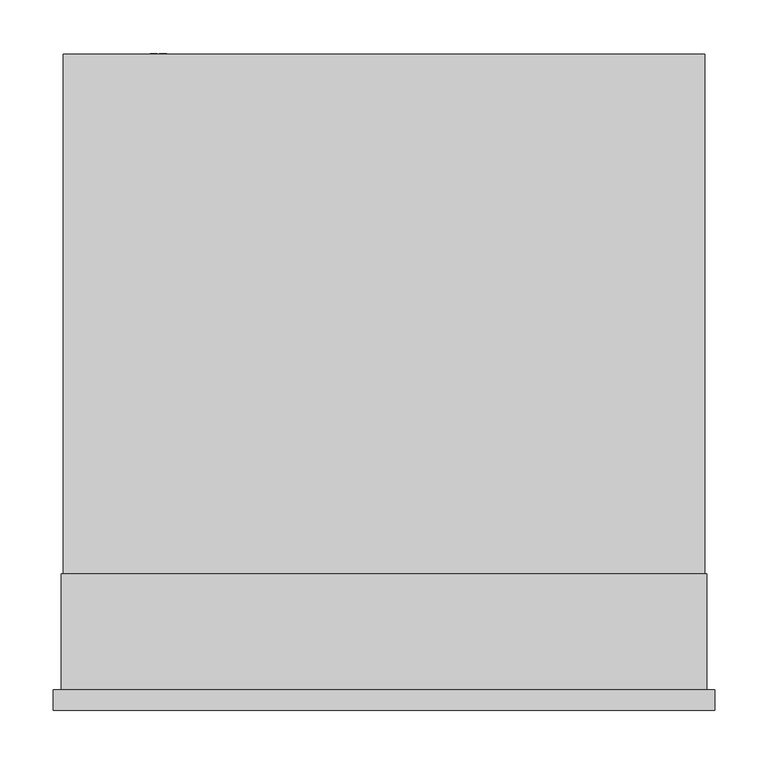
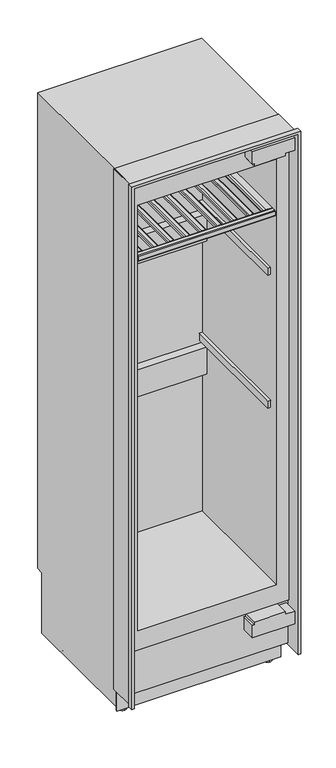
"""IFC4 building model written with IfcOpenShell, lengths in millimetres: proxy geometry, 11503620_USA_KWT2602SF : 36260215_USA_11503620_KWT2602SF."""

from ifc_helpers import new_model, si_unit, point, frame, frame_2d, origin, place, context, project, spatial, polyline, circle_curve, trimmed, segment, composite_curve, outline, extrude, faceted_brep, source, transform, mapped, element, save
from ifc_brep_helpers import plane_surface, cylinder_surface, advanced_brep


def specialty_equipment_70156e45(model_context):
    return source(origin(), model_context, "Body", "SolidModel", [
        extrude(outline(composite_curve([segment(polyline([(1797.0, -229.0), (1797.0, -252.0), (1775.0, -252.0), (1775.0, -229.0)]), True, "CONTINUOUS"), segment(trimmed(circle_curve(frame_2d((1780.0, -229.0)), 5.0), [point((1775.0, -229.0))], [point((1780.0, -224.0))], False, "CARTESIAN"), True, "CONTINUOUS"), segment(polyline([(1780.0, -224.0), (1792.0, -224.0)]), True, "CONTINUOUS"), segment(trimmed(circle_curve(frame_2d((1792.0, -229.0)), 5.0), [point((1792.0, -224.0))], [point((1797.0, -229.0))], False, "CARTESIAN"), True, "CONTINUOUS")], self_intersect=False)), frame((0.0, 90.0, 0.0), z_axis=(0.0, 1.0, 0.0), x_axis=(0.0, 0.0, 1.0)), (0.0, 0.0, 1.0), 404.0),
        extrude(outline(composite_curve([segment(polyline([(1797.0, -169.5), (1797.0, -181.5)]), True, "CONTINUOUS"), segment(trimmed(circle_curve(frame_2d((1793.0, -181.5)), 4.0), [point((1797.0, -181.5))], [point((1793.0, -185.5))], False, "CARTESIAN"), True, "CONTINUOUS"), segment(polyline([(1793.0, -185.5), (1785.0, -185.5), (1785.0, -165.5), (1793.0, -165.5)]), True, "CONTINUOUS"), segment(trimmed(circle_curve(frame_2d((1793.0, -169.5)), 4.0), [point((1793.0, -165.5))], [point((1797.0, -169.5))], False, "CARTESIAN"), True, "CONTINUOUS")], self_intersect=False)), frame((0.0, 90.0, 0.0), z_axis=(0.0, 1.0, 0.0), x_axis=(0.0, 0.0, 1.0)), (0.0, 0.0, 1.0), 404.0),
        extrude(outline(composite_curve([segment(trimmed(circle_curve(frame_2d((1792.0, 229.0)), 5.0), [point((1797.0, 229.0))], [point((1792.0, 224.0))], False, "CARTESIAN"), True, "CONTINUOUS"), segment(polyline([(1792.0, 224.0), (1780.0, 224.0)]), True, "CONTINUOUS"), segment(trimmed(circle_curve(frame_2d((1780.0, 229.0)), 5.0), [point((1780.0, 224.0))], [point((1775.0, 229.0))], False, "CARTESIAN"), True, "CONTINUOUS"), segment(polyline([(1775.0, 229.0), (1775.0, 252.0), (1797.0, 252.0), (1797.0, 229.0)]), True, "CONTINUOUS")], self_intersect=False)), frame((0.0, 90.0, 0.0), z_axis=(0.0, 1.0, 0.0), x_axis=(0.0, 0.0, 1.0)), (0.0, 0.0, 1.0), 404.0),
        extrude(outline(composite_curve([segment(polyline([(1797.0, -111.0), (1797.0, -123.0)]), True, "CONTINUOUS"), segment(trimmed(circle_curve(frame_2d((1793.0, -123.0)), 4.0), [point((1797.0, -123.0))], [point((1793.0, -127.0))], False, "CARTESIAN"), True, "CONTINUOUS"), segment(polyline([(1793.0, -127.0), (1785.0, -127.0), (1785.0, -107.0), (1793.0, -107.0)]), True, "CONTINUOUS"), segment(trimmed(circle_curve(frame_2d((1793.0, -111.0)), 4.0), [point((1793.0, -107.0))], [point((1797.0, -111.0))], False, "CARTESIAN"), True, "CONTINUOUS")], self_intersect=False)), frame((0.0, 90.0, 0.0), z_axis=(0.0, 1.0, 0.0), x_axis=(0.0, 0.0, 1.0)), (0.0, 0.0, 1.0), 404.0),
        extrude(outline(composite_curve([segment(polyline([(1797.0, -52.5), (1797.0, -64.5)]), True, "CONTINUOUS"), segment(trimmed(circle_curve(frame_2d((1793.0, -64.5)), 4.0), [point((1797.0, -64.5))], [point((1793.0, -68.5))], False, "CARTESIAN"), True, "CONTINUOUS"), segment(polyline([(1793.0, -68.5), (1785.0, -68.5), (1785.0, -48.5), (1793.0, -48.5)]), True, "CONTINUOUS"), segment(trimmed(circle_curve(frame_2d((1793.0, -52.5)), 4.0), [point((1793.0, -48.5))], [point((1797.0, -52.5))], False, "CARTESIAN"), True, "CONTINUOUS")], self_intersect=False)), frame((0.0, 90.0, 0.0), z_axis=(0.0, 1.0, 0.0), x_axis=(0.0, 0.0, 1.0)), (0.0, 0.0, 1.0), 404.0),
        extrude(outline(composite_curve([segment(polyline([(1797.0, 6.0), (1797.0, -6.0)]), True, "CONTINUOUS"), segment(trimmed(circle_curve(frame_2d((1793.0, -6.0)), 4.0), [point((1797.0, -6.0))], [point((1793.0, -10.0))], False, "CARTESIAN"), True, "CONTINUOUS"), segment(polyline([(1793.0, -10.0), (1785.0, -10.0), (1785.0, 10.0), (1793.0, 10.0)]), True, "CONTINUOUS"), segment(trimmed(circle_curve(frame_2d((1793.0, 6.0)), 4.0), [point((1793.0, 10.0))], [point((1797.0, 6.0))], False, "CARTESIAN"), True, "CONTINUOUS")], self_intersect=False)), frame((0.0, 90.0, 0.0), z_axis=(0.0, 1.0, 0.0), x_axis=(0.0, 0.0, 1.0)), (0.0, 0.0, 1.0), 404.0),
        extrude(outline(composite_curve([segment(polyline([(1797.0, 64.5), (1797.0, 52.5)]), True, "CONTINUOUS"), segment(trimmed(circle_curve(frame_2d((1793.0, 52.5)), 4.0), [point((1797.0, 52.5))], [point((1793.0, 48.5))], False, "CARTESIAN"), True, "CONTINUOUS"), segment(polyline([(1793.0, 48.5), (1785.0, 48.5), (1785.0, 68.5), (1793.0, 68.5)]), True, "CONTINUOUS"), segment(trimmed(circle_curve(frame_2d((1793.0, 64.5)), 4.0), [point((1793.0, 68.5))], [point((1797.0, 64.5))], False, "CARTESIAN"), True, "CONTINUOUS")], self_intersect=False)), frame((0.0, 90.0, 0.0), z_axis=(0.0, 1.0, 0.0), x_axis=(0.0, 0.0, 1.0)), (0.0, 0.0, 1.0), 404.0),
        extrude(outline(composite_curve([segment(polyline([(1797.0, 123.0), (1797.0, 111.0)]), True, "CONTINUOUS"), segment(trimmed(circle_curve(frame_2d((1793.0, 111.0)), 4.0), [point((1797.0, 111.0))], [point((1793.0, 107.0))], False, "CARTESIAN"), True, "CONTINUOUS"), segment(polyline([(1793.0, 107.0), (1785.0, 107.0), (1785.0, 127.0), (1793.0, 127.0)]), True, "CONTINUOUS"), segment(trimmed(circle_curve(frame_2d((1793.0, 123.0)), 4.0), [point((1793.0, 127.0))], [point((1797.0, 123.0))], False, "CARTESIAN"), True, "CONTINUOUS")], self_intersect=False)), frame((0.0, 90.0, 0.0), z_axis=(0.0, 1.0, 0.0), x_axis=(0.0, 0.0, 1.0)), (0.0, 0.0, 1.0), 404.0),
        extrude(outline(composite_curve([segment(polyline([(1797.0, 181.5), (1797.0, 169.5)]), True, "CONTINUOUS"), segment(trimmed(circle_curve(frame_2d((1793.0, 169.5)), 4.0), [point((1797.0, 169.5))], [point((1793.0, 165.5))], False, "CARTESIAN"), True, "CONTINUOUS"), segment(polyline([(1793.0, 165.5), (1785.0, 165.5), (1785.0, 185.5), (1793.0, 185.5)]), True, "CONTINUOUS"), segment(trimmed(circle_curve(frame_2d((1793.0, 181.5)), 4.0), [point((1793.0, 185.5))], [point((1797.0, 181.5))], False, "CARTESIAN"), True, "CONTINUOUS")], self_intersect=False)), frame((0.0, 90.0, 0.0), z_axis=(0.0, 1.0, 0.0), x_axis=(0.0, 0.0, 1.0)), (0.0, 0.0, 1.0), 404.0),
        extrude(outline(composite_curve([segment(polyline([(74.0, 1797.0), (87.0, 1797.0)]), True, "CONTINUOUS"), segment(trimmed(circle_curve(frame_2d((87.0, 1794.0)), 3.0), [point((87.0, 1797.0))], [point((90.0, 1794.0))], False, "CARTESIAN"), True, "CONTINUOUS"), segment(polyline([(90.0, 1794.0), (90.0, 1778.0)]), True, "CONTINUOUS"), segment(trimmed(circle_curve(frame_2d((87.0, 1778.0)), 3.0), [point((90.0, 1778.0))], [point((87.0, 1775.0))], False, "CARTESIAN"), True, "CONTINUOUS"), segment(polyline([(87.0, 1775.0), (74.0, 1775.0)]), True, "CONTINUOUS"), segment(trimmed(circle_curve(frame_2d((74.0, 1778.0)), 3.0), [point((74.0, 1775.0))], [point((71.0, 1778.0))], False, "CARTESIAN"), True, "CONTINUOUS"), segment(polyline([(71.0, 1778.0), (71.0, 1794.0)]), True, "CONTINUOUS"), segment(trimmed(circle_curve(frame_2d((74.0, 1794.0)), 3.0), [point((71.0, 1794.0))], [point((74.0, 1797.0))], False, "CARTESIAN"), True, "CONTINUOUS")], self_intersect=False)), frame((-252.0, 0.0, 0.0), z_axis=(1.0, 0.0, 0.0), x_axis=(0.0, 1.0, 0.0)), (0.0, 0.0, 1.0), 504.0),
        extrude(outline(composite_curve([segment(polyline([(497.0, 1797.0), (510.0, 1797.0)]), True, "CONTINUOUS"), segment(trimmed(circle_curve(frame_2d((510.0, 1794.0)), 3.0), [point((510.0, 1797.0))], [point((513.0, 1794.0))], False, "CARTESIAN"), True, "CONTINUOUS"), segment(polyline([(513.0, 1794.0), (513.0, 1778.0)]), True, "CONTINUOUS"), segment(trimmed(circle_curve(frame_2d((510.0, 1778.0)), 3.0), [point((513.0, 1778.0))], [point((510.0, 1775.0))], False, "CARTESIAN"), True, "CONTINUOUS"), segment(polyline([(510.0, 1775.0), (497.0, 1775.0)]), True, "CONTINUOUS"), segment(trimmed(circle_curve(frame_2d((497.0, 1778.0)), 3.0), [point((497.0, 1775.0))], [point((494.0, 1778.0))], False, "CARTESIAN"), True, "CONTINUOUS"), segment(polyline([(494.0, 1778.0), (494.0, 1794.0)]), True, "CONTINUOUS"), segment(trimmed(circle_curve(frame_2d((497.0, 1794.0)), 3.0), [point((494.0, 1794.0))], [point((497.0, 1797.0))], False, "CARTESIAN"), True, "CONTINUOUS")], self_intersect=False)), frame((-252.0, 0.0, 0.0), z_axis=(1.0, 0.0, 0.0), x_axis=(0.0, 1.0, 0.0)), (0.0, 0.0, 1.0), 504.0),
        extrude(outline(polyline([(216.5, 1968.4), (253.625, 1909.0), (252.4457524, 1909.0), (215.3207524, 1968.4), (216.5, 1968.4)])), frame((-69.0, 0.0, 0.0), z_axis=(1.0, 0.0, 0.0), x_axis=(0.0, 1.0, 0.0)), (0.0, 0.0, 1.0), 138.0),
        extrude(outline(polyline([(407.0, 1998.0), (407.0, 1902.0), (258.0, 1902.0), (213.0, 1974.0), (150.0, 1998.0), (407.0, 1998.0)])), frame((-255.5, 0.0, 0.0), z_axis=(1.0, 0.0, 0.0), x_axis=(0.0, 1.0, 0.0)), (0.0, 0.0, 1.0), 511.0),
        extrude(outline(polyline([(2095.0, 295.0), (2095.0, 140.0), (2047.0, 140.0), (2047.0, 146.0), (2036.5, 146.0), (2036.5, 261.0), (2047.0, 261.0), (2047.0, 295.0), (2095.0, 295.0)])), frame((0.0, 21.0, 0.0), z_axis=(0.0, 1.0, 0.0), x_axis=(0.0, 0.0, 1.0)), (0.0, 0.0, 1.0), 47.0),
        extrude(outline(polyline([(254.0, 140.0), (206.0, 140.0), (206.0, 295.0), (254.0, 295.0), (254.0, 261.0), (264.0, 261.0), (264.0, 146.0), (254.0, 146.0), (254.0, 140.0)])), frame((0.0, 21.0, 0.0), z_axis=(0.0, 1.0, 0.0), x_axis=(0.0, 0.0, 1.0)), (0.0, 0.0, 1.0), 54.0),
        extrude(outline(polyline([(99.0373308, -211.2645771), (97.7615342, -211.2645771), (97.7615342, -205.3195541), (94.7968516, -205.3195541), (94.7968516, -210.969579), (93.5246295, -210.969579), (93.5246295, -205.3415693), (90.2570046, -205.3415693), (90.2570046, -211.4619689), (88.9546219, -211.4619689), (88.9546219, -204.0443524), (99.0373308, -204.0443524), (99.0373308, -211.2645771)])), frame((0.0, 625.0, 0.0), z_axis=(0.0, 1.0, 0.0), x_axis=(0.0, 0.0, 1.0)), (0.0, 0.0, 1.0), 1.0),
        extrude(outline(polyline([(99.0458, -214.5619704), (90.2663944, -214.5619704), (90.2663944, -219.6145879), (89.0134802, -219.6145879), (89.0134802, -213.3423809), (99.0458, -213.3423809), (99.0458, -214.5619704)])), frame((0.0, 625.0, 0.0), z_axis=(0.0, 1.0, 0.0), x_axis=(0.0, 0.0, 1.0)), (0.0, 0.0, 1.0), 1.0),
        extrude(outline(composite_curve([segment(trimmed(circle_curve(frame_2d((94.0, -211.5)), 7.5), [point((86.5, -211.5))], [point((101.5, -211.5))], False, "CARTESIAN"), True, "CONTINUOUS"), segment(trimmed(circle_curve(frame_2d((94.0, -211.5)), 7.5), [point((101.5, -211.5))], [point((86.5, -211.5))], False, "CARTESIAN"), True, "CONTINUOUS")], self_intersect=False)), frame((0.0, 598.0, 0.0), z_axis=(0.0, 1.0, 0.0), x_axis=(0.0, 0.0, 1.0)), (0.0, 0.0, 1.0), 27.0),
        extrude(outline(polyline([(-301.5, 125.0), (301.5, 125.0), (301.5, 120.0), (-301.5, 120.0), (-301.5, 125.0)])), frame((0.0, 0.0, 14.0), z_axis=(0.0, 0.0, 1.0), x_axis=(1.0, 0.0, 0.0)), (0.0, 0.0, 1.0), 83.0),
        extrude(outline(polyline([(-244.5, 540.0), (-244.5, 105.0), (-255.5, 105.0), (-255.5, 540.0), (-244.5, 540.0)])), frame((0.0, 0.0, 1527.0), z_axis=(0.0, 0.0, 1.0), x_axis=(1.0, 0.0, 0.0)), (0.0, 0.0, 1.0), 27.0),
        extrude(outline(polyline([(-244.5, 540.0), (-244.5, 105.0), (-255.5, 105.0), (-255.5, 540.0), (-244.5, 540.0)])), frame((0.0, 0.0, 1011.0), z_axis=(0.0, 0.0, 1.0), x_axis=(1.0, 0.0, 0.0)), (0.0, 0.0, 1.0), 27.0),
        extrude(outline(polyline([(255.5, 540.0), (255.5, 105.0), (244.5, 105.0), (244.5, 540.0), (255.5, 540.0)])), frame((0.0, 0.0, 1527.0), z_axis=(0.0, 0.0, 1.0), x_axis=(1.0, 0.0, 0.0)), (0.0, 0.0, 1.0), 27.0),
        extrude(outline(polyline([(255.5, 540.0), (255.5, 105.0), (244.5, 105.0), (244.5, 540.0), (255.5, 540.0)])), frame((0.0, 0.0, 1011.0), z_axis=(0.0, 0.0, 1.0), x_axis=(1.0, 0.0, 0.0)), (0.0, 0.0, 1.0), 27.0),
        extrude(outline(polyline([(255.5, 540.0), (255.5, 510.0), (-255.5, 510.0), (-255.5, 540.0), (255.5, 540.0)])), frame((0.0, 0.0, 1928.0), z_axis=(0.0, 0.0, 1.0), x_axis=(1.0, 0.0, 0.0)), (0.0, 0.0, 1.0), 70.0),
        extrude(outline(polyline([(255.5, 540.0), (255.5, 510.0), (-255.5, 510.0), (-255.5, 540.0), (255.5, 540.0)])), frame((0.0, 0.0, 1412.0), z_axis=(0.0, 0.0, 1.0), x_axis=(1.0, 0.0, 0.0)), (0.0, 0.0, 1.0), 105.0),
        extrude(outline(polyline([(255.5, 540.0), (255.5, 510.0), (-255.5, 510.0), (-255.5, 540.0), (255.5, 540.0)])), frame((0.0, 0.0, 895.0), z_axis=(0.0, 0.0, 1.0), x_axis=(1.0, 0.0, 0.0)), (0.0, 0.0, 1.0), 105.0),
        advanced_brep(
        [(-267.5, 160.0, 0.0), (-267.5, 130.0, 0.0), (-267.5, 160.0, 7.0), (-267.5, 130.0, 7.0), (-267.5, 149.7, 7.0), (-267.5, 140.3, 7.0), (-267.5, 149.7, 28.0), (-267.5, 140.3, 28.0)],
        [
            (0, 1, circle_curve(frame((-267.5, 145.0, 0.0), z_axis=(0.0, 0.0, -1.0), x_axis=(1.0, 0.0, 0.0)), 15.0)),
            (1, 0, circle_curve(frame((-267.5, 145.0, 0.0), z_axis=(0.0, 0.0, -1.0), x_axis=(1.0, 0.0, 0.0)), 15.0)),
            (2, 3, circle_curve(frame((-267.5, 145.0, 7.0), z_axis=(0.0, 0.0, 1.0), x_axis=(1.0, 0.0, 0.0)), 15.0)),
            (3, 2, circle_curve(frame((-267.5, 145.0, 7.0), z_axis=(0.0, 0.0, 1.0), x_axis=(1.0, 0.0, 0.0)), 15.0)),
            (4, 5, circle_curve(frame((-267.5, 145.0, 7.0), z_axis=(0.0, 0.0, -1.0), x_axis=(0.0, -1.0, 0.0)), 4.7)),
            (5, 4, circle_curve(frame((-267.5, 145.0, 7.0), z_axis=(0.0, 0.0, -1.0), x_axis=(0.0, -1.0, 0.0)), 4.7)),
            (0, 2),
            (3, 1),
            (6, 7, circle_curve(frame((-267.5, 145.0, 28.0), z_axis=(0.0, 0.0, 1.0), x_axis=(0.0, -1.0, 0.0)), 4.7)),
            (7, 6, circle_curve(frame((-267.5, 145.0, 28.0), z_axis=(0.0, 0.0, 1.0), x_axis=(0.0, -1.0, 0.0)), 4.7)),
            (7, 5),
            (4, 6),
        ],
        [
            plane_surface(frame((-252.5, 145.0, 0.0), z_axis=(0.0, 0.0, -1.0), x_axis=(0.0, -1.0, 0.0))),
            plane_surface(frame((-252.5, 145.0, 7.0), z_axis=(0.0, 0.0, 1.0), x_axis=(0.0, 1.0, 0.0))),
            cylinder_surface(frame((-267.5, 145.0, 7.0), z_axis=(0.0, 0.0, -1.0), x_axis=(1.0, 0.0, 0.0)), 15.0),
            plane_surface(frame((-267.5, 140.3, 28.0), z_axis=(0.0, 0.0, 1.0), x_axis=(1.0, 0.0, 0.0))),
            cylinder_surface(frame((-267.5, 145.0, 28.0), z_axis=(0.0, 0.0, -1.0), x_axis=(0.0, -1.0, 0.0)), 4.7),
        ],
        [
            (0, [[1, 2]]),
            (1, [[3, 4], [5, 6]]),
            (2, [[-1, 7, -4, 8]]),
            (2, [[-2, -8, -3, -7]]),
            (3, [[9, 10]]),
            (4, [[-10, 11, -5, 12]]),
            (4, [[-9, -12, -6, -11]]),
        ],
    ),
        advanced_brep(
        [(267.5, 160.0, 0.0), (267.5, 130.0, 0.0), (267.5, 160.0, 7.0), (267.5, 130.0, 7.0), (267.5, 149.7, 7.0), (267.5, 140.3, 7.0), (267.5, 149.7, 28.0), (267.5, 140.3, 28.0)],
        [
            (0, 1, circle_curve(frame((267.5, 145.0, 0.0), z_axis=(0.0, 0.0, -1.0), x_axis=(1.0, 0.0, 0.0)), 15.0)),
            (1, 0, circle_curve(frame((267.5, 145.0, 0.0), z_axis=(0.0, 0.0, -1.0), x_axis=(1.0, 0.0, 0.0)), 15.0)),
            (2, 3, circle_curve(frame((267.5, 145.0, 7.0), z_axis=(0.0, 0.0, 1.0), x_axis=(1.0, 0.0, 0.0)), 15.0)),
            (3, 2, circle_curve(frame((267.5, 145.0, 7.0), z_axis=(0.0, 0.0, 1.0), x_axis=(1.0, 0.0, 0.0)), 15.0)),
            (4, 5, circle_curve(frame((267.5, 145.0, 7.0), z_axis=(0.0, 0.0, -1.0), x_axis=(0.0, -1.0, 0.0)), 4.7)),
            (5, 4, circle_curve(frame((267.5, 145.0, 7.0), z_axis=(0.0, 0.0, -1.0), x_axis=(0.0, -1.0, 0.0)), 4.7)),
            (0, 2),
            (3, 1),
            (6, 7, circle_curve(frame((267.5, 145.0, 28.0), z_axis=(0.0, 0.0, 1.0), x_axis=(0.0, -1.0, 0.0)), 4.7)),
            (7, 6, circle_curve(frame((267.5, 145.0, 28.0), z_axis=(0.0, 0.0, 1.0), x_axis=(0.0, -1.0, 0.0)), 4.7)),
            (7, 5),
            (4, 6),
        ],
        [
            plane_surface(frame((-252.5, 145.0, 0.0), z_axis=(0.0, 0.0, -1.0), x_axis=(0.0, -1.0, 0.0))),
            plane_surface(frame((-252.5, 145.0, 7.0), z_axis=(0.0, 0.0, 1.0), x_axis=(0.0, 1.0, 0.0))),
            cylinder_surface(frame((267.5, 145.0, 7.0), z_axis=(0.0, 0.0, -1.0), x_axis=(1.0, 0.0, 0.0)), 15.0),
            plane_surface(frame((-267.5, 140.3, 28.0), z_axis=(0.0, 0.0, 1.0), x_axis=(1.0, 0.0, 0.0))),
            cylinder_surface(frame((267.5, 145.0, 28.0), z_axis=(0.0, 0.0, -1.0), x_axis=(0.0, -1.0, 0.0)), 4.7),
        ],
        [
            (0, [[1, 2]]),
            (1, [[3, 4], [5, 6]]),
            (2, [[-1, 7, -4, 8]]),
            (2, [[-2, -8, -3, -7]]),
            (3, [[9, 10]]),
            (4, [[-10, 11, -5, 12]]),
            (4, [[-9, -12, -6, -11]]),
        ],
    ),
        advanced_brep(
        [(301.5, 68.0, 2114.0), (301.5, 68.0, 267.0), (301.5, 75.0, 267.0), (301.5, 75.0, 97.0), (301.5, 125.0, 97.0), (301.5, 125.0, 28.0), (301.5, 598.0, 28.0), (301.5, 598.0, 263.0), (301.5, 625.0, 263.0), (301.5, 625.0, 2114.0), (-301.5, 68.0, 2114.0), (-301.5, 625.0, 2114.0), (-301.5, 625.0, 263.0), (-301.5, 598.0, 263.0), (-301.5, 598.0, 28.0), (-301.5, 125.0, 28.0), (-301.5, 125.0, 97.0), (-301.5, 75.0, 97.0), (-301.5, 75.0, 267.0), (-301.5, 68.0, 267.0), (241.5, 598.0, 28.0), (241.5, 598.0, 14.0), (-241.5, 598.0, 14.0), (-241.5, 598.0, 28.0), (241.5, 125.0, 14.0), (-241.5, 125.0, 14.0), (-241.5, 125.0, 28.0), (241.5, 125.0, 28.0), (255.5, 68.0, 1998.0), (255.5, 68.0, 343.0), (-255.5, 68.0, 343.0), (-255.5, 68.0, 1998.0), (255.5, 540.0, 1998.0), (-255.5, 540.0, 1998.0), (-255.5, 540.0, 343.0), (255.5, 540.0, 343.0), (-260.0, 223.8193473, 28.0), (-279.0, 223.8193473, 28.0), (-279.0, 174.1806527, 28.0), (-260.0, 174.1806527, 28.0), (-279.5, 546.8193473, 28.0), (-279.5, 497.1806527, 28.0), (-263.5, 497.1806527, 28.0), (-263.5, 546.8193473, 28.0), (279.0, 174.1806527, 28.0), (279.0, 223.8193473, 28.0), (260.0, 223.8193473, 28.0), (260.0, 174.1806527, 28.0), (263.5, 546.8193473, 28.0), (263.5, 497.1806527, 28.0), (279.5, 497.1806527, 28.0), (279.5, 546.8193473, 28.0), (-260.0, 224.0, 25.0), (-260.0, 174.0, 25.0), (-279.0, 174.0, 25.0), (-279.0, 224.0, 25.0), (-260.0, 199.0, 25.0), (-279.0, 199.0, 25.0), (279.0, 199.0, 25.0), (279.0, 174.0, 25.0), (279.0, 224.0, 25.0), (260.0, 224.0, 25.0), (260.0, 174.0, 25.0), (260.0, 199.0, 25.0), (-279.5, 547.0, 25.0), (-279.5, 497.0, 25.0), (-279.5, 522.0, 25.0), (-263.5, 547.0, 25.0), (-263.5, 497.0, 25.0), (-263.5, 522.0, 25.0), (263.5, 547.0, 25.0), (263.5, 497.0, 25.0), (263.5, 522.0, 25.0), (279.5, 547.0, 25.0), (279.5, 497.0, 25.0), (279.5, 522.0, 25.0)],
        [
            (0, 1),
            (1, 2),
            (2, 3),
            (3, 4),
            (4, 5),
            (5, 6),
            (6, 7),
            (7, 8),
            (8, 9),
            (9, 0),
            (10, 11),
            (11, 12),
            (12, 13),
            (13, 14),
            (14, 15),
            (15, 16),
            (16, 17),
            (17, 18),
            (18, 19),
            (19, 10),
            (9, 11),
            (10, 0),
            (8, 12),
            (7, 13),
            (6, 20),
            (20, 21),
            (21, 22),
            (22, 23),
            (23, 14),
            (21, 24),
            (24, 25),
            (25, 22),
            (4, 16),
            (15, 26),
            (26, 25),
            (24, 27),
            (27, 5),
            (3, 17),
            (2, 18),
            (1, 19),
            (28, 29),
            (29, 30),
            (30, 31),
            (31, 28),
            (32, 33),
            (33, 34),
            (34, 35),
            (35, 32),
            (35, 29),
            (28, 32),
            (34, 30),
            (33, 31),
            (23, 26),
            (36, 37),
            (37, 38),
            (38, 39),
            (39, 36),
            (40, 41),
            (41, 42),
            (42, 43),
            (43, 40),
            (27, 20),
            (44, 45),
            (45, 46),
            (46, 47),
            (47, 44),
            (48, 49),
            (49, 50),
            (50, 51),
            (51, 48),
            (52, 53, circle_curve(frame((-260.0, 199.0, 25.0), z_axis=(-1.0, 0.0, 0.0), x_axis=(0.0, -1.0, 0.0)), 25.0)),
            (53, 54),
            (54, 55, circle_curve(frame((-279.0, 199.0, 25.0), z_axis=(1.0, 0.0, 0.0), x_axis=(0.0, -1.0, 0.0)), 25.0)),
            (55, 52),
            (53, 39, circle_curve(frame((-260.0, 199.0, 25.0), z_axis=(-1.0, 0.0, 0.0), x_axis=(0.0, -1.0, 0.0)), 25.0)),
            (38, 54, circle_curve(frame((-279.0, 199.0, 25.0), z_axis=(1.0, 0.0, 0.0), x_axis=(0.0, -1.0, 0.0)), 25.0)),
            (55, 37, circle_curve(frame((-279.0, 199.0, 25.0), z_axis=(1.0, 0.0, 0.0), x_axis=(0.0, -1.0, 0.0)), 25.0)),
            (36, 52, circle_curve(frame((-260.0, 199.0, 25.0), z_axis=(-1.0, 0.0, 0.0), x_axis=(0.0, -1.0, 0.0)), 25.0)),
            (52, 56),
            (56, 53),
            (54, 57),
            (57, 55),
            (58, 59),
            (59, 60, circle_curve(frame((279.0, 199.0, 25.0), z_axis=(1.0, 0.0, 0.0), x_axis=(0.0, -1.0, 0.0)), 25.0)),
            (60, 58),
            (60, 45, circle_curve(frame((279.0, 199.0, 25.0), z_axis=(1.0, 0.0, 0.0), x_axis=(0.0, -1.0, 0.0)), 25.0)),
            (44, 59, circle_curve(frame((279.0, 199.0, 25.0), z_axis=(1.0, 0.0, 0.0), x_axis=(0.0, -1.0, 0.0)), 25.0)),
            (61, 62, circle_curve(frame((260.0, 199.0, 25.0), z_axis=(-1.0, 0.0, 0.0), x_axis=(0.0, -1.0, 0.0)), 25.0)),
            (62, 63),
            (63, 61),
            (62, 47, circle_curve(frame((260.0, 199.0, 25.0), z_axis=(-1.0, 0.0, 0.0), x_axis=(0.0, -1.0, 0.0)), 25.0)),
            (46, 61, circle_curve(frame((260.0, 199.0, 25.0), z_axis=(-1.0, 0.0, 0.0), x_axis=(0.0, -1.0, 0.0)), 25.0)),
            (64, 65, circle_curve(frame((-279.5, 522.0, 25.0), z_axis=(-1.0, 0.0, 0.0), x_axis=(0.0, -1.0, 0.0)), 25.0)),
            (65, 66),
            (66, 64),
            (65, 41, circle_curve(frame((-279.5, 522.0, 25.0), z_axis=(-1.0, 0.0, 0.0), x_axis=(0.0, -1.0, 0.0)), 25.0)),
            (40, 64, circle_curve(frame((-279.5, 522.0, 25.0), z_axis=(-1.0, 0.0, 0.0), x_axis=(0.0, -1.0, 0.0)), 25.0)),
            (64, 67),
            (67, 68, circle_curve(frame((-263.5, 522.0, 25.0), z_axis=(-1.0, 0.0, 0.0), x_axis=(0.0, -1.0, 0.0)), 25.0)),
            (68, 65),
            (43, 67, circle_curve(frame((-263.5, 522.0, 25.0), z_axis=(-1.0, 0.0, 0.0), x_axis=(0.0, -1.0, 0.0)), 25.0)),
            (68, 42, circle_curve(frame((-263.5, 522.0, 25.0), z_axis=(-1.0, 0.0, 0.0), x_axis=(0.0, -1.0, 0.0)), 25.0)),
            (67, 69),
            (69, 68),
            (70, 71, circle_curve(frame((263.5, 522.0, 25.0), z_axis=(-1.0, 0.0, 0.0), x_axis=(0.0, -1.0, 0.0)), 25.0)),
            (71, 72),
            (72, 70),
            (71, 49, circle_curve(frame((263.5, 522.0, 25.0), z_axis=(-1.0, 0.0, 0.0), x_axis=(0.0, -1.0, 0.0)), 25.0)),
            (48, 70, circle_curve(frame((263.5, 522.0, 25.0), z_axis=(-1.0, 0.0, 0.0), x_axis=(0.0, -1.0, 0.0)), 25.0)),
            (70, 73),
            (73, 74, circle_curve(frame((279.5, 522.0, 25.0), z_axis=(-1.0, 0.0, 0.0), x_axis=(0.0, -1.0, 0.0)), 25.0)),
            (74, 71),
            (51, 73, circle_curve(frame((279.5, 522.0, 25.0), z_axis=(-1.0, 0.0, 0.0), x_axis=(0.0, -1.0, 0.0)), 25.0)),
            (74, 50, circle_curve(frame((279.5, 522.0, 25.0), z_axis=(-1.0, 0.0, 0.0), x_axis=(0.0, -1.0, 0.0)), 25.0)),
            (73, 75),
            (75, 74),
            (59, 62),
            (61, 60),
        ],
        [
            plane_surface(frame((301.5, 625.0, 2114.0), z_axis=(1.0, 0.0, 0.0), x_axis=(0.0, -1.0, 0.0))),
            plane_surface(frame((-301.5, 625.0, 2114.0), z_axis=(-1.0, 0.0, 0.0), x_axis=(0.0, 1.0, 0.0))),
            plane_surface(frame((-301.5, 68.0, 2114.0), z_axis=(0.0, 0.0, 1.0), x_axis=(1.0, 0.0, 0.0))),
            plane_surface(frame((-301.5, 625.0, 2114.0), z_axis=(0.0, 1.0, 0.0), x_axis=(1.0, 0.0, 0.0))),
            plane_surface(frame((-301.5, 625.0, 263.0), z_axis=(0.0, 0.0, -1.0), x_axis=(1.0, 0.0, 0.0))),
            plane_surface(frame((-301.5, 598.0, 263.0), z_axis=(0.0, 1.0, 0.0), x_axis=(1.0, 0.0, 0.0))),
            plane_surface(frame((-301.5, 598.0, 14.0), z_axis=(0.0, 0.0, -1.0), x_axis=(1.0, 0.0, 0.0))),
            plane_surface(frame((-301.5, 125.0, 14.0), z_axis=(0.0, -1.0, 0.0), x_axis=(1.0, 0.0, 0.0))),
            plane_surface(frame((-301.5, 125.0, 97.0), z_axis=(0.0, 0.0, -1.0), x_axis=(1.0, 0.0, 0.0))),
            plane_surface(frame((-301.5, 75.0, 97.0), z_axis=(0.0, -1.0, 0.0), x_axis=(1.0, 0.0, 0.0))),
            plane_surface(frame((-301.5, 75.0, 267.0), z_axis=(0.0, 0.0, -1.0), x_axis=(1.0, 0.0, 0.0))),
            plane_surface(frame((-301.5, 68.0, 267.0), z_axis=(0.0, -1.0, 0.0), x_axis=(1.0, 0.0, 0.0))),
            plane_surface(frame((255.5, 540.0, 1998.0), z_axis=(0.0, -1.0, 0.0), x_axis=(0.0, 0.0, -1.0))),
            plane_surface(frame((255.5, 540.0, 1998.0), z_axis=(-1.0, 0.0, 0.0), x_axis=(0.0, -1.0, 0.0))),
            plane_surface(frame((255.5, 540.0, 343.0), z_axis=(0.0, 0.0, 1.0), x_axis=(0.0, -1.0, 0.0))),
            plane_surface(frame((-255.5, 540.0, 343.0), z_axis=(1.0, 0.0, 0.0), x_axis=(0.0, -1.0, 0.0))),
            plane_surface(frame((-255.5, 540.0, 1998.0), z_axis=(0.0, 0.0, -1.0), x_axis=(0.0, -1.0, 0.0))),
            plane_surface(frame((-301.5, 625.0, 28.0), z_axis=(0.0, 0.0, -1.0), x_axis=(-1.0, 0.0, 0.0))),
            plane_surface(frame((-241.5, 125.0, 28.0), z_axis=(-1.0, 0.0, 0.0), x_axis=(0.0, 0.0, -1.0))),
            plane_surface(frame((241.5, 625.0, 28.0), z_axis=(1.0, 0.0, 0.0), x_axis=(0.0, 0.0, -1.0))),
            cylinder_surface(frame((-394.1988927, 199.0, 25.0), z_axis=(1.0, 0.0, 0.0), x_axis=(0.0, -1.0, 0.0)), 25.0),
            plane_surface(frame((-260.0, 199.0, 25.0), z_axis=(1.0, 0.0, 0.0), x_axis=(0.0, -1.0, 0.0))),
            plane_surface(frame((-279.0, 199.0, 25.0), z_axis=(-1.0, 0.0, 0.0), x_axis=(0.0, -1.0, 0.0))),
            plane_surface(frame((279.0, 199.0, 25.0), z_axis=(1.0, 0.0, 0.0), x_axis=(0.0, -1.0, 0.0))),
            plane_surface(frame((260.0, 199.0, 25.0), z_axis=(-1.0, 0.0, 0.0), x_axis=(0.0, -1.0, 0.0))),
            plane_surface(frame((-279.5, 522.0, 25.0), z_axis=(-1.0, 0.0, 0.0), x_axis=(0.0, -1.0, 0.0))),
            cylinder_surface(frame((-394.1988927, 522.0, 25.0), z_axis=(1.0, 0.0, 0.0), x_axis=(0.0, -1.0, 0.0)), 25.0),
            plane_surface(frame((-263.5, 522.0, 25.0), z_axis=(1.0, 0.0, 0.0), x_axis=(0.0, -1.0, 0.0))),
            plane_surface(frame((263.5, 522.0, 25.0), z_axis=(-1.0, 0.0, 0.0), x_axis=(0.0, -1.0, 0.0))),
            plane_surface(frame((279.5, 522.0, 25.0), z_axis=(1.0, 0.0, 0.0), x_axis=(0.0, -1.0, 0.0))),
        ],
        [
            (0, [[1, 2, 3, 4, 5, 6, 7, 8, 9, 10]]),
            (1, [[11, 12, 13, 14, 15, 16, 17, 18, 19, 20]]),
            (2, [[-10, 21, -11, 22]]),
            (3, [[-9, 23, -12, -21]]),
            (4, [[-8, 24, -13, -23]]),
            (5, [[-24, -7, 25, 26, 27, 28, 29, -14]]),
            (6, [[-27, 30, 31, 32]]),
            (7, [[33, -16, 34, 35, -31, 36, 37, -5]]),
            (8, [[-4, 38, -17, -33]]),
            (9, [[-3, 39, -18, -38]]),
            (10, [[-2, 40, -19, -39]]),
            (11, [[-1, -22, -20, -40], [41, 42, 43, 44]]),
            (12, [[45, 46, 47, 48]]),
            (13, [[-48, 49, -41, 50]]),
            (14, [[-47, 51, -42, -49]]),
            (15, [[-46, 52, -43, -51]]),
            (16, [[-45, -50, -44, -52]]),
            (17, [[53, -34, -15, -29], [54, 55, 56, 57], [58, 59, 60, 61]]),
            (17, [[62, -25, -6, -37], [63, 64, 65, 66], [67, 68, 69, 70]]),
            (18, [[-53, -28, -32, -35]]),
            (19, [[-62, -36, -30, -26]]),
            (20, [[71, 72, 73, 74]]),
            (20, [[-72, 75, -56, 76]]),
            (20, [[-74, 77, -54, 78]]),
            (21, [[-71, 79, 80]]),
            (21, [[-80, -79, -78, -57, -75]]),
            (22, [[-73, 81, 82]]),
            (22, [[-81, -76, -55, -77, -82]]),
            (23, [[83, 84, 85]]),
            (23, [[-83, -85, 86, -63, 87]]),
            (24, [[88, 89, 90]]),
            (24, [[-89, 91, -65, 92, -90]]),
            (25, [[93, 94, 95]]),
            (25, [[-94, 96, -58, 97, -95]]),
            (26, [[-93, 98, 99, 100]]),
            (26, [[-98, -97, -61, 101]]),
            (26, [[-100, 102, -59, -96]]),
            (27, [[-99, 103, 104]]),
            (27, [[-104, -103, -101, -60, -102]]),
            (28, [[105, 106, 107]]),
            (28, [[-106, 108, -67, 109, -107]]),
            (26, [[-105, 110, 111, 112]]),
            (26, [[-110, -109, -70, 113]]),
            (26, [[-112, 114, -68, -108]]),
            (29, [[-111, 115, 116]]),
            (29, [[-116, -115, -113, -69, -114]]),
            (20, [[-84, 117, -88, 118]]),
            (20, [[-117, -87, -66, -91]]),
            (20, [[-118, -92, -64, -86]]),
        ],
    ),
        faceted_brep([(-311.0, 27.0, 91.0), (-311.0, 27.0, 2123.0), (311.0, 27.0, 2123.0), (311.0, 27.0, 91.0), (303.2, 27.0, 91.0), (303.2, 27.0, 2115.0), (-303.2, 27.0, 2115.0), (-303.2, 27.0, 91.0), (301.5, 8.0, 2114.0), (301.5, 8.0, 91.0), (311.0, 8.0, 91.0), (311.0, 8.0, 2123.0), (-311.0, 8.0, 2123.0), (-311.0, 8.0, 91.0), (-301.5, 8.0, 91.0), (-301.5, 8.0, 2114.0), (301.5, 136.0, 2114.0), (301.5, 136.0, 91.0), (-301.5, 136.0, 91.0), (-301.5, 136.0, 2114.0), (-303.2, 136.0, 91.0), (303.2, 136.0, 91.0), (-303.2, 136.0, 2115.0), (303.2, 136.0, 2115.0)], [[[0, 1, 2, 3, 4, 5, 6, 7]], [[8, 9, 10, 11, 12, 13, 14, 15]], [[9, 8, 16, 17]], [[15, 14, 18, 19]], [[16, 8, 15, 19]], [[18, 14, 13, 0, 7, 20]], [[1, 0, 13, 12]], [[2, 1, 12, 11]], [[3, 2, 11, 10]], [[10, 9, 17, 21, 4, 3]], [[16, 19, 18, 20, 22, 23, 21, 17]], [[22, 20, 7, 6]], [[23, 22, 6, 5]], [[21, 23, 5, 4]]]),
    ])


if __name__ == "__main__":
    model = new_model("IFC4")
    model_context = context("Model", 3, world=origin())
    ifc_project = project(units=[si_unit("LENGTHUNIT", "METRE", prefix="MILLI")], contexts=[model_context])
    site = spatial("IfcSite", under=ifc_project)
    building = spatial("IfcBuilding", under=site)
    placement = place(None, origin())
    specialty_equipment_shape = specialty_equipment_70156e45(model_context)
    element("IfcBuildingElementProxy", 1, Name="11503620_USA_KWT2602SF : 36260215_USA_11503620_KWT2602SF", ObjectType="11503620_USA_KWT2602SF : 36260215_USA_11503620_KWT2602SF", at=placement, inside=building, context=model_context, shape_type="MappedRepresentation", body=[
        mapped(specialty_equipment_shape, transform((0.0, 0.0, 0.0), x_axis=(1.0, 0.0, 0.0), y_axis=(0.0, 1.0, 0.0), z_axis=(0.0, 0.0, 1.0))),
    ])
    save(model, "model.ifc")
